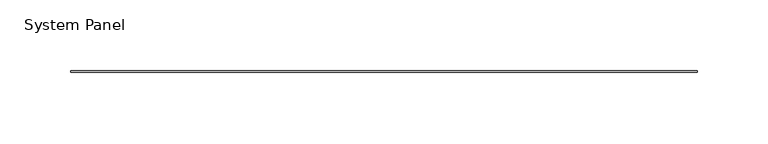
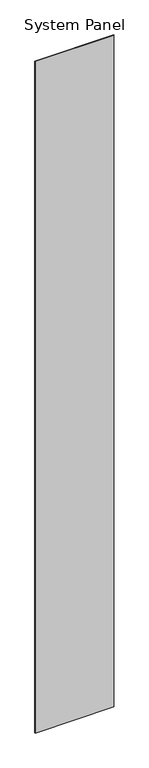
"""IFC4 building model written with IfcOpenShell, lengths in millimetres: plate geometry, System Panel : Stratco_Hiland_Interlock_Panel."""

from ifc_helpers import new_model, si_unit, origin, origin_with_axes, place, context, project, spatial, polyline, outline, extrude, source, transform, mapped, element, save


def system_panel_099fa51e(model_context):
    return source(origin(), model_context, "Body", "SweptSolid", [
        extrude(outline(polyline([(221.9514014, 24.0), (-221.9514014, 24.0), (-221.9514014, 25.0), (221.9514014, 25.0), (221.9514014, 24.0)])), origin_with_axes(), (0.0, 0.0, 1.0), 4000.0),
    ])


if __name__ == "__main__":
    model = new_model("IFC4")
    model_context = context("Model", 3, world=origin())
    ifc_project = project(units=[si_unit("LENGTHUNIT", "METRE", prefix="MILLI")], contexts=[model_context])
    site = spatial("IfcSite", under=ifc_project)
    building = spatial("IfcBuilding", under=site)
    placement = place(None, origin())
    system_panel_shape = system_panel_099fa51e(model_context)
    element("IfcPlate", 1, ObjectType="System Panel : Stratco_Hiland_Interlock_Panel", at=placement, inside=building, context=model_context, shape_type="MappedRepresentation", body=[
        mapped(system_panel_shape, transform((0.0, 0.0, 0.0), x_axis=(1.0, 0.0, 0.0), y_axis=(0.0, 1.0, 0.0), z_axis=(0.0, 0.0, 1.0))),
    ])
    save(model, "model.ifc")
